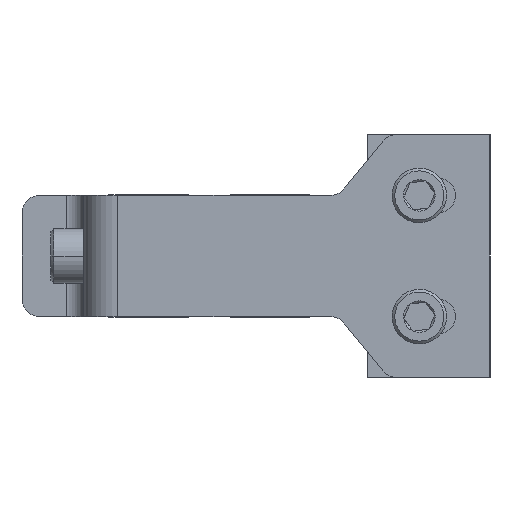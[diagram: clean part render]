
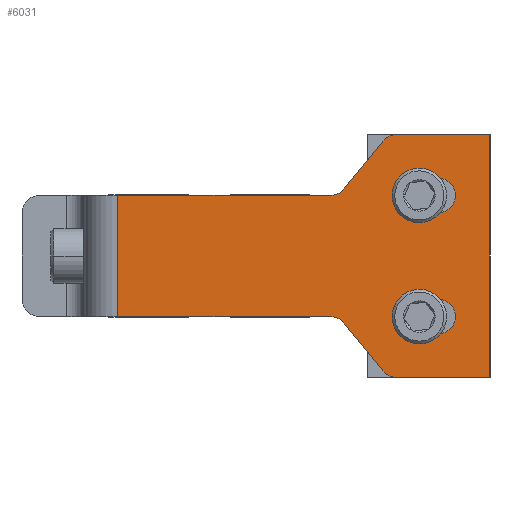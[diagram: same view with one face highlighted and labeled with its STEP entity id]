
A CAD part, left-side view. The second image highlights one B-rep face of the part: STEP entity #6031.
In plain terms, the highlighted planar face has unit normal (-1, 0, 0).
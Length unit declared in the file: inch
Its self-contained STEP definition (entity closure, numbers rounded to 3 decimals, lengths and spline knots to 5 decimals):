
#5313=DIRECTION('',(0.,-0.632,-0.775));
#5314=VECTOR('',#5313,0.446);
#5315=CARTESIAN_POINT('',(0.,1.05449,-0.48347));
#5316=LINE('',#5315,#5314);
#5317=CARTESIAN_POINT('',(0.,1.15134,-0.5625));
#5318=DIRECTION('',(1.,0.,0.));
#5319=DIRECTION('',(0.,0.,1.));
#5320=AXIS2_PLACEMENT_3D('',#5317,#5318,#5319);
#5322=DIRECTION('',(0.,-1.,0.));
#5323=VECTOR('',#5322,1.53666);
#5324=CARTESIAN_POINT('',(0.,2.688,-0.4375));
#5325=LINE('',#5324,#5323);
#5326=DIRECTION('',(0.,1.,0.));
#5327=VECTOR('',#5326,1.53666);
#5328=CARTESIAN_POINT('',(0.,1.15134,0.4375));
#5329=LINE('',#5328,#5327);
#5330=CARTESIAN_POINT('',(0.,1.15134,0.5625));
#5331=DIRECTION('',(1.,0.,0.));
#5332=DIRECTION('',(0.,-0.775,-0.632));
#5333=AXIS2_PLACEMENT_3D('',#5330,#5331,#5332);
#5335=DIRECTION('',(0.,0.632,-0.775));
#5336=VECTOR('',#5335,0.446);
#5337=CARTESIAN_POINT('',(0.,0.77251,0.82903));
#5338=LINE('',#5337,#5336);
#5339=CARTESIAN_POINT('',(0.,0.67566,0.75));
#5340=DIRECTION('',(-1.,0.,0.));
#5341=DIRECTION('',(0.,0.,1.));
#5342=AXIS2_PLACEMENT_3D('',#5339,#5340,#5341);
#5344=DIRECTION('',(0.,0.,1.));
#5345=VECTOR('',#5344,1.75);
#5346=CARTESIAN_POINT('',(0.,0.,-0.875));
#5347=LINE('',#5346,#5345);
#5348=DIRECTION('',(0.,-1.,0.));
#5349=VECTOR('',#5348,0.67566);
#5350=CARTESIAN_POINT('',(0.,0.67566,-0.875));
#5351=LINE('',#5350,#5349);
#5352=CARTESIAN_POINT('',(0.,0.67566,-0.75));
#5353=DIRECTION('',(-1.,0.,0.));
#5354=DIRECTION('',(0.,0.775,-0.632));
#5355=AXIS2_PLACEMENT_3D('',#5352,#5353,#5354);
#5357=CARTESIAN_POINT('',(0.,0.51,0.4375));
#5358=DIRECTION('',(1.,0.,0.));
#5359=DIRECTION('',(0.,0.,-1.));
#5360=AXIS2_PLACEMENT_3D('',#5357,#5358,#5359);
#5362=DIRECTION('',(0.,1.,0.));
#5363=VECTOR('',#5362,0.135);
#5364=CARTESIAN_POINT('',(0.,0.375,0.3125));
#5365=LINE('',#5364,#5363);
#5366=CARTESIAN_POINT('',(0.,0.375,0.4375));
#5367=DIRECTION('',(1.,0.,0.));
#5368=DIRECTION('',(0.,0.,1.));
#5369=AXIS2_PLACEMENT_3D('',#5366,#5367,#5368);
#5371=DIRECTION('',(0.,-1.,0.));
#5372=VECTOR('',#5371,0.135);
#5373=CARTESIAN_POINT('',(0.,0.51,0.5625));
#5374=LINE('',#5373,#5372);
#5375=CARTESIAN_POINT('',(0.,0.51,-0.4375));
#5376=DIRECTION('',(1.,0.,0.));
#5377=DIRECTION('',(0.,0.,-1.));
#5378=AXIS2_PLACEMENT_3D('',#5375,#5376,#5377);
#5380=DIRECTION('',(0.,1.,0.));
#5381=VECTOR('',#5380,0.135);
#5382=CARTESIAN_POINT('',(0.,0.375,-0.5625));
#5383=LINE('',#5382,#5381);
#5384=CARTESIAN_POINT('',(0.,0.375,-0.4375));
#5385=DIRECTION('',(1.,0.,0.));
#5386=DIRECTION('',(0.,0.,1.));
#5387=AXIS2_PLACEMENT_3D('',#5384,#5385,#5386);
#5389=DIRECTION('',(0.,-1.,0.));
#5390=VECTOR('',#5389,0.135);
#5391=CARTESIAN_POINT('',(0.,0.51,-0.3125));
#5392=LINE('',#5391,#5390);
#5469=DIRECTION('',(0.,-1.,0.));
#5470=VECTOR('',#5469,0.67566);
#5471=CARTESIAN_POINT('',(0.,0.67566,0.875));
#5472=LINE('',#5471,#5470);
#5557=DIRECTION('',(0.,0.,1.));
#5558=VECTOR('',#5557,0.875);
#5559=CARTESIAN_POINT('',(0.,2.688,-0.4375));
#5560=LINE('',#5559,#5558);
#5577=CARTESIAN_POINT('',(0.,2.688,-0.4375));
#5579=VERTEX_POINT('',#5577);
#5581=CARTESIAN_POINT('',(0.,0.,0.875));
#5583=VERTEX_POINT('',#5581);
#5585=CARTESIAN_POINT('',(0.,0.67566,-0.875));
#5586=CARTESIAN_POINT('',(0.,0.,-0.875));
#5587=VERTEX_POINT('',#5585);
#5588=VERTEX_POINT('',#5586);
#5589=CARTESIAN_POINT('',(0.,0.67566,0.875));
#5590=VERTEX_POINT('',#5589);
#5595=CARTESIAN_POINT('',(0.,0.375,0.3125));
#5596=CARTESIAN_POINT('',(0.,0.51,0.3125));
#5597=VERTEX_POINT('',#5595);
#5598=VERTEX_POINT('',#5596);
#5604=CARTESIAN_POINT('',(0.,0.77251,0.82903));
#5606=VERTEX_POINT('',#5604);
#5611=CARTESIAN_POINT('',(0.,0.375,-0.3125));
#5612=CARTESIAN_POINT('',(0.,0.375,-0.5625));
#5613=VERTEX_POINT('',#5611);
#5614=VERTEX_POINT('',#5612);
#5619=CARTESIAN_POINT('',(0.,0.375,0.5625));
#5621=VERTEX_POINT('',#5619);
#5627=CARTESIAN_POINT('',(0.,0.51,0.5625));
#5628=VERTEX_POINT('',#5627);
#5633=CARTESIAN_POINT('',(0.,1.05449,0.48347));
#5634=VERTEX_POINT('',#5633);
#5645=CARTESIAN_POINT('',(0.,0.77251,-0.82903));
#5647=VERTEX_POINT('',#5645);
#5649=CARTESIAN_POINT('',(0.,1.15134,-0.4375));
#5650=VERTEX_POINT('',#5649);
#5651=CARTESIAN_POINT('',(0.,0.51,-0.5625));
#5653=VERTEX_POINT('',#5651);
#5663=CARTESIAN_POINT('',(0.,0.51,-0.3125));
#5664=VERTEX_POINT('',#5663);
#5674=CARTESIAN_POINT('',(0.,1.15134,0.4375));
#5676=VERTEX_POINT('',#5674);
#5677=CARTESIAN_POINT('',(0.,2.688,0.4375));
#5678=VERTEX_POINT('',#5677);
#5694=CARTESIAN_POINT('',(0.,1.05449,-0.48347));
#5696=VERTEX_POINT('',#5694);
#5981=CARTESIAN_POINT('',(0.,0.,0.875));
#5982=DIRECTION('',(-1.,0.,0.));
#5983=DIRECTION('',(0.,0.,1.));
#5984=AXIS2_PLACEMENT_3D('',#5981,#5982,#5983);
#5985=PLANE('',#5984);
#5987=ORIENTED_EDGE('',*,*,#5986,.F.);
#5989=ORIENTED_EDGE('',*,*,#5988,.F.);
#5991=ORIENTED_EDGE('',*,*,#5990,.F.);
#5993=ORIENTED_EDGE('',*,*,#5992,.T.);
#5994=ORIENTED_EDGE('',*,*,#5971,.F.);
#5996=ORIENTED_EDGE('',*,*,#5995,.F.);
#5998=ORIENTED_EDGE('',*,*,#5997,.F.);
#6000=ORIENTED_EDGE('',*,*,#5999,.F.);
#6002=ORIENTED_EDGE('',*,*,#6001,.T.);
#6004=ORIENTED_EDGE('',*,*,#6003,.F.);
#6006=ORIENTED_EDGE('',*,*,#6005,.F.);
#6008=ORIENTED_EDGE('',*,*,#6007,.F.);
#6009=EDGE_LOOP('',(#5987,#5989,#5991,#5993,#5994,#5996,#5998,#6000,#6002,#6004,
#6006,#6008));
#6010=FACE_OUTER_BOUND('',#6009,.F.);
#6012=ORIENTED_EDGE('',*,*,#6011,.F.);
#6014=ORIENTED_EDGE('',*,*,#6013,.F.);
#6016=ORIENTED_EDGE('',*,*,#6015,.F.);
#6018=ORIENTED_EDGE('',*,*,#6017,.F.);
#6019=EDGE_LOOP('',(#6012,#6014,#6016,#6018));
#6020=FACE_BOUND('',#6019,.F.);
#6022=ORIENTED_EDGE('',*,*,#6021,.F.);
#6024=ORIENTED_EDGE('',*,*,#6023,.F.);
#6026=ORIENTED_EDGE('',*,*,#6025,.F.);
#6028=ORIENTED_EDGE('',*,*,#6027,.F.);
#6029=EDGE_LOOP('',(#6022,#6024,#6026,#6028));
#6030=FACE_BOUND('',#6029,.F.);
#5321=CIRCLE('',#5320,0.125);
#5334=CIRCLE('',#5333,0.125);
#5343=CIRCLE('',#5342,0.125);
#5356=CIRCLE('',#5355,0.125);
#5361=CIRCLE('',#5360,0.125);
#5370=CIRCLE('',#5369,0.125);
#5379=CIRCLE('',#5378,0.125);
#5388=CIRCLE('',#5387,0.125);
#5971=EDGE_CURVE('',#5676,#5678,#5329,.T.);
#5986=EDGE_CURVE('',#5696,#5647,#5316,.T.);
#5988=EDGE_CURVE('',#5650,#5696,#5321,.T.);
#5990=EDGE_CURVE('',#5579,#5650,#5325,.T.);
#5992=EDGE_CURVE('',#5579,#5678,#5560,.T.);
#5995=EDGE_CURVE('',#5634,#5676,#5334,.T.);
#5997=EDGE_CURVE('',#5606,#5634,#5338,.T.);
#5999=EDGE_CURVE('',#5590,#5606,#5343,.T.);
#6001=EDGE_CURVE('',#5590,#5583,#5472,.T.);
#6003=EDGE_CURVE('',#5588,#5583,#5347,.T.);
#6005=EDGE_CURVE('',#5587,#5588,#5351,.T.);
#6007=EDGE_CURVE('',#5647,#5587,#5356,.T.);
#6011=EDGE_CURVE('',#5598,#5628,#5361,.T.);
#6013=EDGE_CURVE('',#5597,#5598,#5365,.T.);
#6015=EDGE_CURVE('',#5621,#5597,#5370,.T.);
#6017=EDGE_CURVE('',#5628,#5621,#5374,.T.);
#6021=EDGE_CURVE('',#5653,#5664,#5379,.T.);
#6023=EDGE_CURVE('',#5614,#5653,#5383,.T.);
#6025=EDGE_CURVE('',#5613,#5614,#5388,.T.);
#6027=EDGE_CURVE('',#5664,#5613,#5392,.T.);
#6031=ADVANCED_FACE('',(#6010,#6020,#6030),#5985,.T.);
